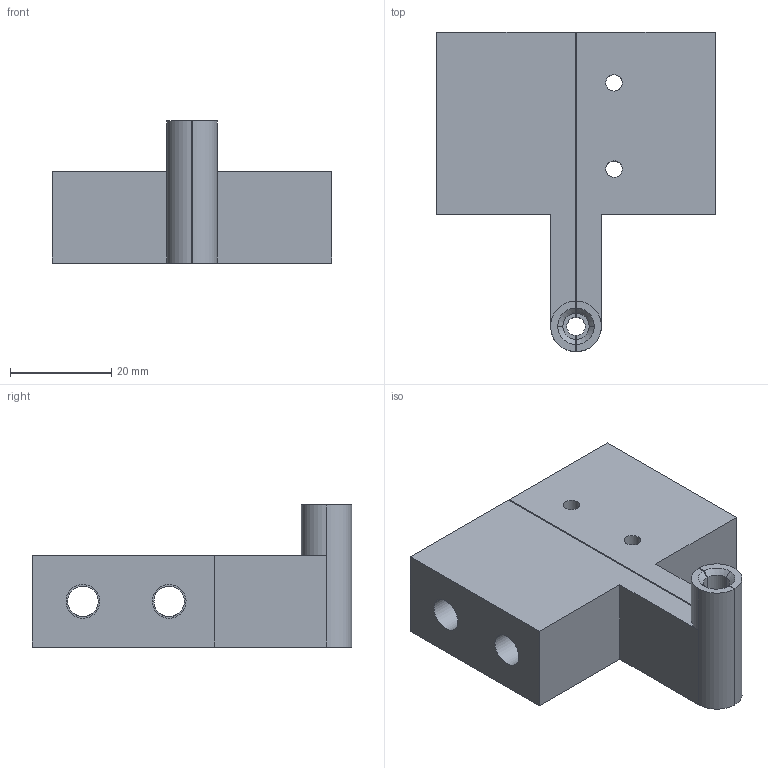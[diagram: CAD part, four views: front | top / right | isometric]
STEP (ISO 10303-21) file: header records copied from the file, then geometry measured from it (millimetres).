
FILE_DESCRIPTION(('CATIA V5 STEP Exchange'),'2;1');
FILE_NAME('G:\够快云库\系统集成开发部\1.部门成员\孙国\工装\手动插管\STP\GZ-SDCG01_V3-0607 气管夹头 .stp','2021-06-08T01:30:36+00:00',('none'),('none'),'CATIA Version 5 Release 20 GA (IN-10)','CATIA V5 STEP AP214','none');
FILE_SCHEMA(('AUTOMOTIVE_DESIGN { 1 0 10303 214 1 1 1 1 }'));
Length unit declared in the file: millimetre
Products named in the file (1): 气管夹头
Bounding box: 55 x 63 x 28 mm (x, y, z)
Volume: 36777.9 mm3; surface area: 13636.6 mm2
Topology: 2 solids, 2 shells, 64 faces, 164 edges, 108 vertices
Faces by surface type: cylinder 36, plane 24, cone 4
Entity records: 2038 total; most frequent: CARTESIAN_POINT 464, ORIENTED_EDGE 328, DIRECTION 203, EDGE_CURVE 164, VERTEX_POINT 108, AXIS2_PLACEMENT_3D 94, VECTOR 84, EDGE_LOOP 84
